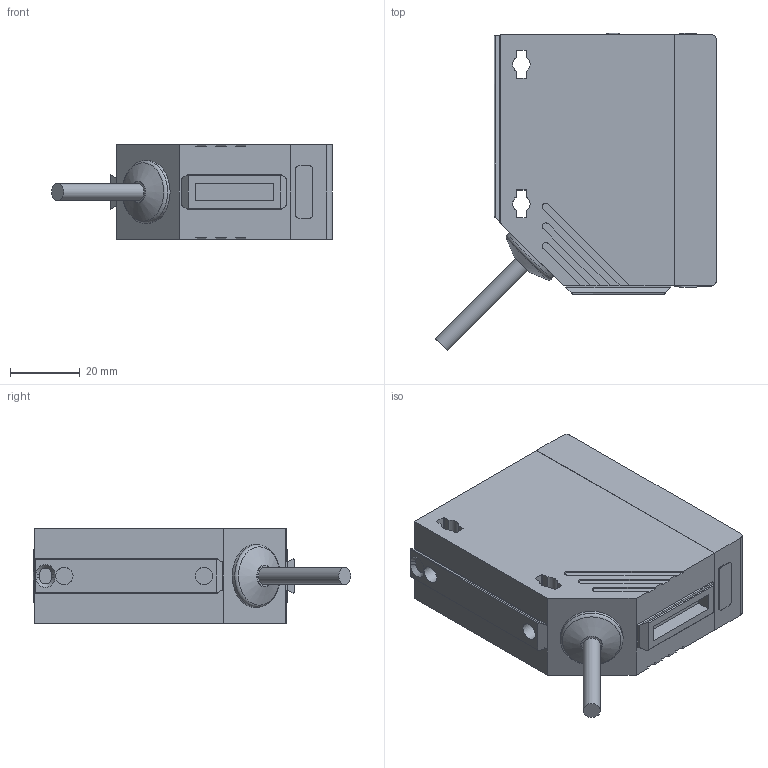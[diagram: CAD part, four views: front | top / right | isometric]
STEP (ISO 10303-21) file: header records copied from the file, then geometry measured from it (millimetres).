
FILE_DESCRIPTION(/* description */ ('STEP AP203'),/* implementation_level */ '2;1');
FILE_NAME(/* name */ 'O4H501',/* time_stamp */ '2024-12-13T09:17:29+01:00',/* author */ ('License CC BY-ND 4.0'),/* organization */ ('CADENAS'),/* preprocessor_version */ 'ST-DEVELOPER v19.3',/* originating_system */ 'PARTsolutions',/* authorisation */ ' ');
FILE_SCHEMA (('CONFIG_CONTROL_DESIGN'));
Length unit declared in the file: millimetre
Products named in the file (3): O4H501; P_MZ_200_0514_P1; P_MZ_200_0269_P2
Assembly tree (2 placements, depth 2):
  O4H501
    P_MZ_200_0514_P1
    P_MZ_200_0269_P2
Bounding box: 80.51 x 91.03 x 27.1 mm (x, y, z)
Volume: 116426.6 mm3; surface area: 21388 mm2
Topology: 2 solids, 2 shells, 221 faces, 582 edges, 382 vertices
Faces by surface type: plane 126, cylinder 70, cone 17, torus 6, sphere 2
Full cylindrical faces by diameter (mm): 2.5 x2, 4.9 x1, 5 x4, 18 x1
Entity records: 8267 total; most frequent: CARTESIAN_POINT 1199, DIRECTION 1169, ORIENTED_EDGE 1114, EDGE_CURVE 557, AXIS2_PLACEMENT_3D 400, VERTEX_POINT 378, LINE 369, VECTOR 369
